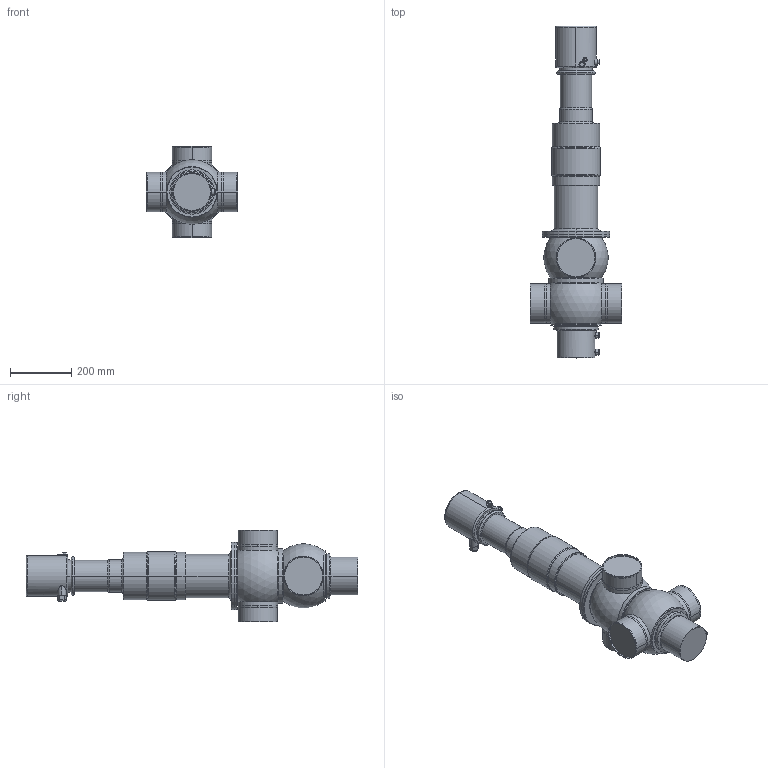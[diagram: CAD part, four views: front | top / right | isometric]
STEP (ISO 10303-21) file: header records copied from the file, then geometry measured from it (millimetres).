
FILE_DESCRIPTION(('Creo Elements/Direct Modeling STEP Export'),'2;1');
FILE_NAME('D44-125_CU4.stp','2019-09-03T15:04:18',(''),(''),'PTC Creo Elements/Direct Modeling STEP processor for AP214 (Solid Model)','PTC Creo Elements/Direct Modeling 19.0B 21-Mar-2015 (C) Parametric Technology GmbH','');
FILE_SCHEMA(('AUTOMOTIVE_DESIGN { 1 0 10303 214 1 1 1 1 }'));
Length unit declared in the file: millimetre
Products named in the file (5): housing_D44-125; CU43-D4; Actuator_D4-D4SL-150_Yoke; drain_pipe_114; D44-125_CU4
Assembly tree (4 placements, depth 2):
  D44-125_CU4
    drain_pipe_114
    Actuator_D4-D4SL-150_Yoke
    CU43-D4
    housing_D44-125
Bounding box: 300 x 1088.15 x 300 mm (x, y, z)
Volume: 23427331.6 mm3; surface area: 881052.7 mm2
Topology: 4 solids, 4 shells, 307 faces, 708 edges, 443 vertices
Faces by surface type: cylinder 123, plane 69, torus 63, extrusion 33, cone 12, sphere 4, bspline 3
Entity records: 14835 total; most frequent: CARTESIAN_POINT 8130, ORIENTED_EDGE 1416, DIRECTION 1261, EDGE_CURVE 708, AXIS2_PLACEMENT_3D 512, VERTEX_POINT 443, EDGE_LOOP 341, FACE_OUTER_BOUND 307
